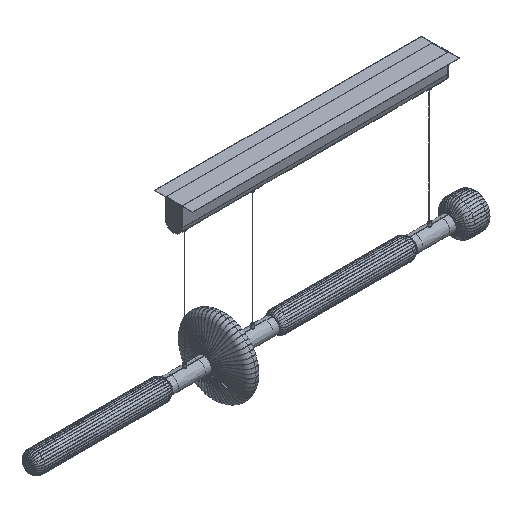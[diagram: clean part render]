
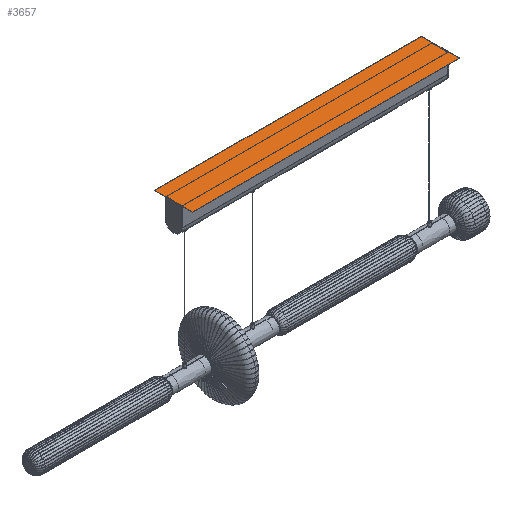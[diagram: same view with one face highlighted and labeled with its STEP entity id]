
A CAD part, isometric view. The second image highlights one B-rep face of the part: STEP entity #3657.
In plain terms, the highlighted planar face has unit normal (0, 0, 1).
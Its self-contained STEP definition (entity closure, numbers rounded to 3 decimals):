
#1730=B_SPLINE_CURVE_WITH_KNOTS('',1,(#112142,#112143),.UNSPECIFIED.,.F.,
 .F.,(2,2),(0.,111.),.UNSPECIFIED.);
#1734=B_SPLINE_CURVE_WITH_KNOTS('',1,(#112150,#112151),.UNSPECIFIED.,.F.,
 .F.,(2,2),(111.,895.),.UNSPECIFIED.);
#1737=B_SPLINE_CURVE_WITH_KNOTS('',1,(#112156,#112157),.UNSPECIFIED.,.F.,
 .F.,(2,2),(895.,1006.),.UNSPECIFIED.);
#1739=B_SPLINE_CURVE_WITH_KNOTS('',1,(#112160,#112161),.UNSPECIFIED.,.F.,
 .F.,(2,2),(1006.,1790.),.UNSPECIFIED.);
#3657=ADVANCED_FACE('',(#5499),#26850,.T.);
#5499=FACE_OUTER_BOUND('',#7374,.T.);
#7374=EDGE_LOOP('',(#16351,#16352,#16353,#16354));
#16351=ORIENTED_EDGE('',*,*,#20835,.T.);
#16352=ORIENTED_EDGE('',*,*,#20839,.T.);
#16353=ORIENTED_EDGE('',*,*,#20842,.T.);
#16354=ORIENTED_EDGE('',*,*,#20844,.T.);
#20835=EDGE_CURVE('',#26447,#26446,#1730,.T.);
#20839=EDGE_CURVE('',#26446,#26449,#1734,.T.);
#20842=EDGE_CURVE('',#26449,#26451,#1737,.T.);
#20844=EDGE_CURVE('',#26451,#26447,#1739,.T.);
#26446=VERTEX_POINT('',#112132);
#26447=VERTEX_POINT('',#112133);
#26449=VERTEX_POINT('',#112135);
#26451=VERTEX_POINT('',#112137);
#26850=PLANE('',#28765);
#28765=AXIS2_PLACEMENT_3D('',#112129,#29205,$);
#29205=DIRECTION('',(0.,0.,1.));
#112129=CARTESIAN_POINT('',(722.037,-55.73,136.537));
#112132=CARTESIAN_POINT('',(722.037,55.27,136.537));
#112133=CARTESIAN_POINT('',(722.037,-55.73,136.537));
#112135=CARTESIAN_POINT('',(-61.963,55.27,136.537));
#112137=CARTESIAN_POINT('',(-61.963,-55.73,136.537));
#112142=CARTESIAN_POINT('',(722.037,-55.73,136.537));
#112143=CARTESIAN_POINT('',(722.037,55.27,136.537));
#112150=CARTESIAN_POINT('',(722.037,55.27,136.537));
#112151=CARTESIAN_POINT('',(-61.963,55.27,136.537));
#112156=CARTESIAN_POINT('',(-61.963,55.27,136.537));
#112157=CARTESIAN_POINT('',(-61.963,-55.73,136.537));
#112160=CARTESIAN_POINT('',(-61.963,-55.73,136.537));
#112161=CARTESIAN_POINT('',(722.037,-55.73,136.537));
